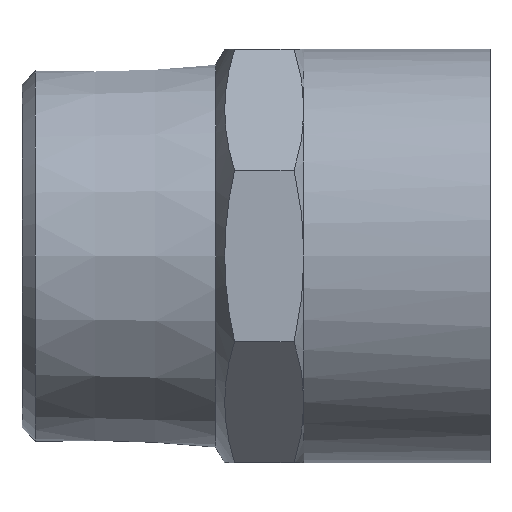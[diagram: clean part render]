
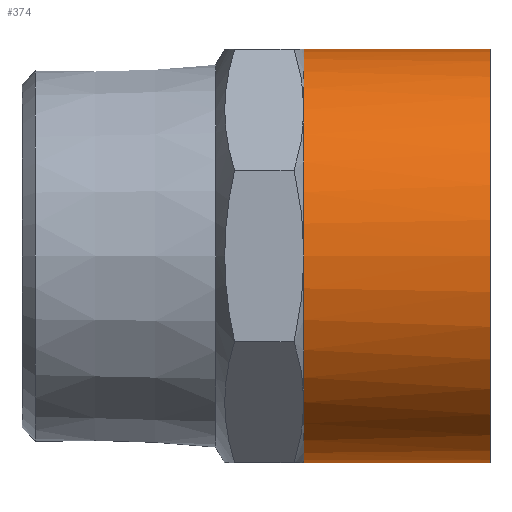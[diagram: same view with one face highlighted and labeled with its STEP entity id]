
A CAD part, front view. The second image highlights one B-rep face of the part: STEP entity #374.
In plain terms, the highlighted cylindrical face has radius 23 mm (diameter 46 mm), a full revolution.
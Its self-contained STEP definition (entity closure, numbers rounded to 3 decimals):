
#57=CYLINDRICAL_SURFACE('',#418,23.);
#77=FACE_BOUND('',#138,.T.);
#103=FACE_OUTER_BOUND('',#137,.T.);
#137=EDGE_LOOP('',(#327));
#138=EDGE_LOOP('',(#328,#329,#330,#331,#332,#333,#334,#335));
#146=CIRCLE('',#395,23.);
#147=CIRCLE('',#397,23.);
#148=CIRCLE('',#399,23.);
#149=CIRCLE('',#401,23.);
#150=CIRCLE('',#403,23.);
#151=CIRCLE('',#405,23.);
#152=CIRCLE('',#407,23.);
#156=CIRCLE('',#417,23.);
#157=CIRCLE('',#419,23.);
#163=VERTEX_POINT('',#531);
#168=VERTEX_POINT('',#548);
#170=VERTEX_POINT('',#561);
#173=VERTEX_POINT('',#575);
#176=VERTEX_POINT('',#589);
#179=VERTEX_POINT('',#603);
#182=VERTEX_POINT('',#617);
#186=VERTEX_POINT('',#637);
#190=VERTEX_POINT('',#671);
#226=EDGE_CURVE('',#186,#182,#146,.T.);
#228=EDGE_CURVE('',#182,#179,#147,.T.);
#229=EDGE_CURVE('',#179,#176,#148,.T.);
#230=EDGE_CURVE('',#176,#173,#149,.T.);
#232=EDGE_CURVE('',#163,#186,#150,.T.);
#233=EDGE_CURVE('',#173,#170,#151,.T.);
#234=EDGE_CURVE('',#168,#163,#152,.T.);
#238=EDGE_CURVE('',#170,#168,#156,.T.);
#239=EDGE_CURVE('',#190,#190,#157,.T.);
#327=ORIENTED_EDGE('',*,*,#239,.F.);
#328=ORIENTED_EDGE('',*,*,#226,.T.);
#329=ORIENTED_EDGE('',*,*,#228,.T.);
#330=ORIENTED_EDGE('',*,*,#229,.T.);
#331=ORIENTED_EDGE('',*,*,#230,.T.);
#332=ORIENTED_EDGE('',*,*,#233,.T.);
#333=ORIENTED_EDGE('',*,*,#238,.T.);
#334=ORIENTED_EDGE('',*,*,#234,.T.);
#335=ORIENTED_EDGE('',*,*,#232,.T.);
#374=ADVANCED_FACE('',(#103,#77),#57,.T.);
#395=AXIS2_PLACEMENT_3D('',#638,#465,#466);
#397=AXIS2_PLACEMENT_3D('',#643,#469,#470);
#399=AXIS2_PLACEMENT_3D('',#645,#473,#474);
#401=AXIS2_PLACEMENT_3D('',#647,#477,#478);
#403=AXIS2_PLACEMENT_3D('',#652,#481,#482);
#405=AXIS2_PLACEMENT_3D('',#654,#485,#486);
#407=AXIS2_PLACEMENT_3D('',#656,#489,#490);
#417=AXIS2_PLACEMENT_3D('',#669,#509,#510);
#418=AXIS2_PLACEMENT_3D('',#670,#511,#512);
#419=AXIS2_PLACEMENT_3D('',#672,#513,#514);
#465=DIRECTION('center_axis',(1.,0.,0.));
#466=DIRECTION('ref_axis',(0.,1.,0.));
#469=DIRECTION('center_axis',(1.,0.,0.));
#470=DIRECTION('ref_axis',(0.,1.,0.));
#473=DIRECTION('center_axis',(1.,0.,0.));
#474=DIRECTION('ref_axis',(0.,1.,0.));
#477=DIRECTION('center_axis',(1.,0.,0.));
#478=DIRECTION('ref_axis',(0.,1.,0.));
#481=DIRECTION('center_axis',(1.,0.,0.));
#482=DIRECTION('ref_axis',(0.,1.,0.));
#485=DIRECTION('center_axis',(1.,0.,0.));
#486=DIRECTION('ref_axis',(0.,1.,0.));
#489=DIRECTION('center_axis',(1.,0.,0.));
#490=DIRECTION('ref_axis',(0.,1.,0.));
#509=DIRECTION('center_axis',(1.,0.,0.));
#510=DIRECTION('ref_axis',(0.,1.,0.));
#511=DIRECTION('center_axis',(1.,0.,0.));
#512=DIRECTION('ref_axis',(0.,1.,0.));
#513=DIRECTION('center_axis',(1.,0.,0.));
#514=DIRECTION('ref_axis',(0.,1.,0.));
#531=CARTESIAN_POINT('',(31.331,16.263,16.263));
#548=CARTESIAN_POINT('',(31.331,23.,0.));
#561=CARTESIAN_POINT('',(31.331,16.263,-16.263));
#575=CARTESIAN_POINT('',(31.331,0.,-23.));
#589=CARTESIAN_POINT('',(31.331,-16.263,-16.263));
#603=CARTESIAN_POINT('',(31.331,-23.,0.));
#617=CARTESIAN_POINT('',(31.331,-16.263,16.263));
#637=CARTESIAN_POINT('',(31.331,0.,23.));
#638=CARTESIAN_POINT('Origin',(31.331,0.,0.));
#643=CARTESIAN_POINT('Origin',(31.331,0.,0.));
#645=CARTESIAN_POINT('Origin',(31.331,0.,0.));
#647=CARTESIAN_POINT('Origin',(31.331,0.,0.));
#652=CARTESIAN_POINT('Origin',(31.331,0.,0.));
#654=CARTESIAN_POINT('Origin',(31.331,0.,0.));
#656=CARTESIAN_POINT('Origin',(31.331,0.,0.));
#669=CARTESIAN_POINT('Origin',(31.331,0.,0.));
#670=CARTESIAN_POINT('Origin',(41.666,0.,0.));
#671=CARTESIAN_POINT('',(52.,23.,0.));
#672=CARTESIAN_POINT('Origin',(52.,0.,0.));
